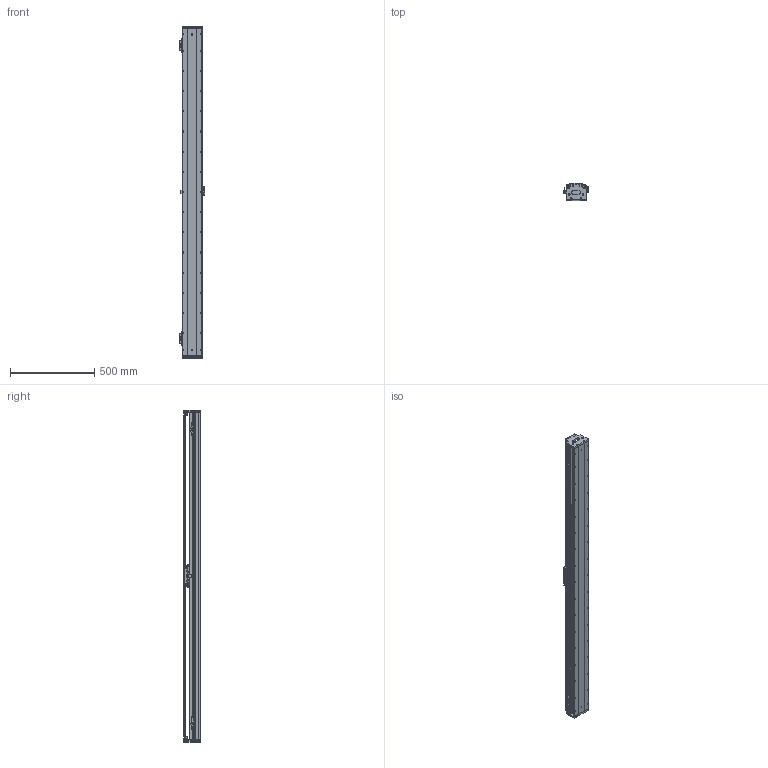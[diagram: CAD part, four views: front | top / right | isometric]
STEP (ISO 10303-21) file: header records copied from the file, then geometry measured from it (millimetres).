
FILE_DESCRIPTION (( 'STEP AP203' ), '1' );
FILE_NAME ('DKW119-C15-W060(T1740-L005-0.2).STEP', '2021-09-02T03:20:37', ( '微软用户' ), ( '微软中国' ), 'SwSTEP 2.0', 'SolidWorks 2018', '' );
FILE_SCHEMA (( 'CONFIG_CONTROL_DESIGN' ));
Length unit declared in the file: millimetre
Products named in the file (27): RUS嫖掑喜; 12160-0000-003-00 DKW120詩湍嶺輸; CKM015-W060-C1-TP-0.2+CKM01-W060-TRL240+黍芛; Ru2; 12160-0000-004-00  DKW120詩湍揤輸; C15-W060; 12018-0001-001-00 菁釱; RUS嫖掑郪璃; DKW119 单轴模组-拉钢带组件; CKMA01-W060-TRLxxx; MSB15-DG-U; DKW119-C15-W060(T1740-L005-0.2); pm-y65; DKW-HXJ-JY-00 遣喳砎蝶; 12018-0001-003-00 賑雄怢啣; 10980-0001-003-00 嫖萇羲壽嘐隅釱; 11062-0001-004-00 DKW119傷啣; MSB15TS2FC+U92.7-16.35_16.35N_(0_45.85_0_01G-M4); 嫖萇羲壽蚾饜极; 06652-0001-004-00 DKW120嶺輸菜輸; DKW-HYB-JY-A-00 賑輸揤啣A; 嫖萇羲壽蚾饜极A; 12018-0001-002-00 詩湍; DKW119-RU-DTJ-00 RU2黍杅芛盓殤; DKW-SG-GYP-H-00 嫖萇覜茼え; 砎蝶猾沭; 葩璃 萇儂堤盄 ^C15-W060
Assembly tree (44 placements, depth 3):
  DKW119-C15-W060(T1740-L005-0.2)
    12018-0001-001-00 菁釱
    MSB15-DG-U  x2
    C15-W060
      12018-0001-003-00 賑雄怢啣
      MSB15TS2FC+U92.7-16.35_16.35N_(0_45.85_0_01G-M4)  x4
      DKW-HYB-JY-A-00 賑輸揤啣A  x2
      DKW119-RU-DTJ-00 RU2黍杅芛盓殤
      葩璃 萇儂堤盄 ^C15-W060
      CKM015-W060-C1-TP-0.2+CKM01-W060-TRL240+黍芛
    CKMA01-W060-TRLxxx
    DKW119 单轴模组-拉钢带组件
      DKW-HXJ-JY-00 遣喳砎蝶  x4
      11062-0001-004-00 DKW119傷啣  x2
      06652-0001-004-00 DKW120嶺輸菜輸  x4
      12018-0001-002-00 詩湍
      砎蝶猾沭  x2
      12160-0000-003-00 DKW120詩湍嶺輸  x2
      12160-0000-004-00  DKW120詩湍揤輸  x2
    嫖萇羲壽蚾饜极
      pm-y65
      10980-0001-003-00 嫖萇羲壽嘐隅釱
    嫖萇羲壽蚾饜极A
      pm-y65  x2
      10980-0001-003-00 嫖萇羲壽嘐隅釱
    DKW-SG-GYP-H-00 嫖萇覜茼え
    RUS嫖掑郪璃
      RUS嫖掑喜
      Ru2
Bounding box: 154.3 x 99 x 1976 mm (x, y, z)
Volume: 8249267.1 mm3; surface area: 2748965 mm2
Topology: 50 solids, 99 shells, 4570 faces, 12193 edges, 7785 vertices
Faces by surface type: plane 2338, cylinder 1513, cone 452, bspline 267
Entity records: 119558 total; most frequent: CARTESIAN_POINT 40580, ORIENTED_EDGE 15771, DIRECTION 15144, EDGE_CURVE 7926, VERTEX_POINT 5196, AXIS2_PLACEMENT_3D 5169, VECTOR 4806, LINE 4806
